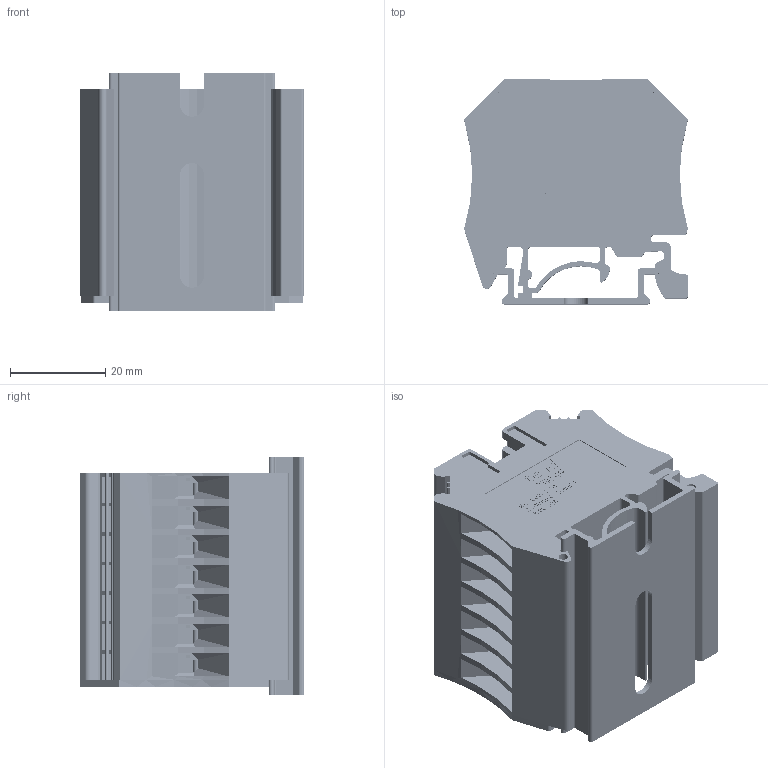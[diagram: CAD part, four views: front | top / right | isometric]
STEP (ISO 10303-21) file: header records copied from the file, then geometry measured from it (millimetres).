
FILE_DESCRIPTION((''),'2;1');
FILE_NAME('PRT0006','2016-06-13T',('Administrator'),(''),'PRO/ENGINEER BY PARAMETRIC TECHNOLOGY CORPORATION, 2012360','PRO/ENGINEER BY PARAMETRIC TECHNOLOGY CORPORATION, 2012360','');
FILE_SCHEMA(('CONFIG_CONTROL_DESIGN'));
Products named in the file (1): PRT0006
Bounding box: 47 x 47.2 x 50 mm (x, y, z)
Volume: 40405.1 mm3; surface area: 61693.8 mm2
Topology: 1 solids, 69 shells, 14092 faces, 40531 edges, 26861 vertices
Faces by surface type: plane 11997, cylinder 1564, bspline 427, cone 76, torus 28
Entity records: 539666 total; most frequent: CARTESIAN_POINT 173786, ORIENTED_EDGE 81062, DIRECTION 67230, EDGE_CURVE 40531, VECTOR 35844, LINE 35844, VERTEX_POINT 26861, AXIS2_PLACEMENT_3D 15693
